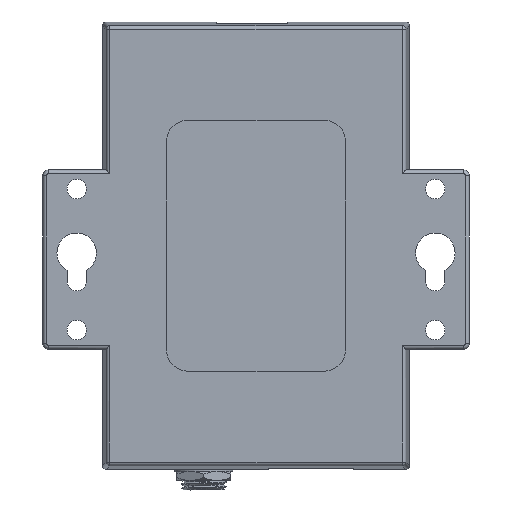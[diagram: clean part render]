
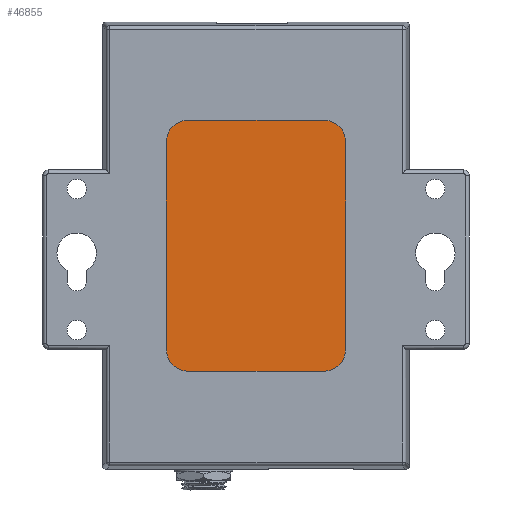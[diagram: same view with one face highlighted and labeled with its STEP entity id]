
A CAD part, front view. The second image highlights one B-rep face of the part: STEP entity #46855.
In plain terms, the highlighted planar face has unit normal (0, -1, 0) as drawn and (0, 1, 0) by its records, which use the part's own axes.
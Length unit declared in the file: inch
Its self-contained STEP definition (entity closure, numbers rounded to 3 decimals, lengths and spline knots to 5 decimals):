
#625 = EDGE_CURVE ( 'NONE', #2099, #23802, #33209, .T. ) ;
#1427 = CARTESIAN_POINT ( 'NONE',  ( 0., 0.01, 0. ) ) ;
#2099 = VERTEX_POINT ( 'NONE', #32347 ) ;
#2554 = AXIS2_PLACEMENT_3D ( 'NONE', #44702, #17270, #49255 ) ;
#2796 = VERTEX_POINT ( 'NONE', #45698 ) ;
#3155 = ORIENTED_EDGE ( 'NONE', *, *, #39306, .T. ) ;
#3282 = EDGE_CURVE ( 'NONE', #53945, #2796, #22520, .T. ) ;
#4163 = ORIENTED_EDGE ( 'NONE', *, *, #5909, .T. ) ;
#5103 = DIRECTION ( 'NONE',  ( 0., 1., 0. ) ) ;
#5909 = EDGE_CURVE ( 'NONE', #37799, #47938, #26864, .T. ) ;
#6009 = DIRECTION ( 'NONE',  ( 0., 0., -1. ) ) ;
#6233 = EDGE_CURVE ( 'NONE', #23849, #2099, #9613, .T. ) ;
#9613 = CIRCLE ( 'NONE', #38734, 0.15 ) ;
#9742 = CARTESIAN_POINT ( 'NONE',  ( 1.1, 0.01, -1.75 ) ) ;
#9843 = DIRECTION ( 'NONE',  ( 1., 0., 0. ) ) ;
#11198 = EDGE_CURVE ( 'NONE', #23802, #15960, #21736, .T. ) ;
#11217 = ORIENTED_EDGE ( 'NONE', *, *, #3282, .T. ) ;
#14187 = EDGE_CURVE ( 'NONE', #15960, #53945, #34520, .T. ) ;
#14378 = DIRECTION ( 'NONE',  ( -1., 0., 0. ) ) ;
#15047 = ORIENTED_EDGE ( 'NONE', *, *, #11198, .T. ) ;
#15960 = VERTEX_POINT ( 'NONE', #9742 ) ;
#17076 = DIRECTION ( 'NONE',  ( 0., 1., 0. ) ) ;
#17270 = DIRECTION ( 'NONE',  ( 0., 1., 0. ) ) ;
#17990 = AXIS2_PLACEMENT_3D ( 'NONE', #1427, #33484, #6009 ) ;
#18819 = CARTESIAN_POINT ( 'NONE',  ( 0., 0.01, 0. ) ) ;
#19396 = FACE_OUTER_BOUND ( 'NONE', #26336, .T. ) ;
#19635 = PLANE ( 'NONE',  #17990 ) ;
#20178 = AXIS2_PLACEMENT_3D ( 'NONE', #32573, #5103, #37149 ) ;
#20992 = VECTOR ( 'NONE', #37248, 39.37008 ) ;
#21736 = CIRCLE ( 'NONE', #20178, 0.15 ) ;
#22520 = CIRCLE ( 'NONE', #2554, 0.15 ) ;
#23768 = DIRECTION ( 'NONE',  ( 0., 1., 0. ) ) ;
#23802 = VERTEX_POINT ( 'NONE', #29836 ) ;
#23849 = VERTEX_POINT ( 'NONE', #44054 ) ;
#24925 = CARTESIAN_POINT ( 'NONE',  ( 0.15, 0.01, 0. ) ) ;
#26336 = EDGE_LOOP ( 'NONE', ( #42998, #11217, #3155, #4163, #30983, #31319, #53032, #15047 ) ) ;
#26798 = CARTESIAN_POINT ( 'NONE',  ( 0., 0.01, 0. ) ) ;
#26864 = CIRCLE ( 'NONE', #34930, 0.15 ) ;
#29836 = CARTESIAN_POINT ( 'NONE',  ( 1.25, 0.01, -1.6 ) ) ;
#29918 = CARTESIAN_POINT ( 'NONE',  ( 0.15, 0.01, -1.75 ) ) ;
#30859 = LINE ( 'NONE', #18819, #41548 ) ;
#30983 = ORIENTED_EDGE ( 'NONE', *, *, #36836, .T. ) ;
#31319 = ORIENTED_EDGE ( 'NONE', *, *, #6233, .T. ) ;
#32347 = CARTESIAN_POINT ( 'NONE',  ( 1.25, 0.01, -0.15 ) ) ;
#32573 = CARTESIAN_POINT ( 'NONE',  ( 1.1, 0.01, -1.6 ) ) ;
#33209 = LINE ( 'NONE', #55165, #20992 ) ;
#33484 = DIRECTION ( 'NONE',  ( 0., -1., 0. ) ) ;
#34520 = LINE ( 'NONE', #37207, #58751 ) ;
#34930 = AXIS2_PLACEMENT_3D ( 'NONE', #51084, #23768, #55684 ) ;
#36836 = EDGE_CURVE ( 'NONE', #47938, #23849, #30859, .T. ) ;
#37149 = DIRECTION ( 'NONE',  ( 0., 0., -1. ) ) ;
#37207 = CARTESIAN_POINT ( 'NONE',  ( 0., 0.01, -1.75 ) ) ;
#37248 = DIRECTION ( 'NONE',  ( 0., 0., -1. ) ) ;
#37799 = VERTEX_POINT ( 'NONE', #40588 ) ;
#38734 = AXIS2_PLACEMENT_3D ( 'NONE', #44521, #17076, #49077 ) ;
#39306 = EDGE_CURVE ( 'NONE', #2796, #37799, #54058, .T. ) ;
#40588 = CARTESIAN_POINT ( 'NONE',  ( 0., 0.01, -0.15 ) ) ;
#41548 = VECTOR ( 'NONE', #9843, 39.37008 ) ;
#41946 = VECTOR ( 'NONE', #49760, 39.37008 ) ;
#42998 = ORIENTED_EDGE ( 'NONE', *, *, #14187, .T. ) ;
#44054 = CARTESIAN_POINT ( 'NONE',  ( 1.1, 0.01, 0. ) ) ;
#44521 = CARTESIAN_POINT ( 'NONE',  ( 1.1, 0.01, -0.15 ) ) ;
#44702 = CARTESIAN_POINT ( 'NONE',  ( 0.15, 0.01, -1.6 ) ) ;
#45698 = CARTESIAN_POINT ( 'NONE',  ( 0., 0.01, -1.6 ) ) ;
#46855 = ADVANCED_FACE ( 'NONE', ( #19396 ), #19635, .F. ) ;
#47938 = VERTEX_POINT ( 'NONE', #24925 ) ;
#49077 = DIRECTION ( 'NONE',  ( 0., 0., -1. ) ) ;
#49255 = DIRECTION ( 'NONE',  ( 0., 0., -1. ) ) ;
#49760 = DIRECTION ( 'NONE',  ( 0., 0., 1. ) ) ;
#51084 = CARTESIAN_POINT ( 'NONE',  ( 0.15, 0.01, -0.15 ) ) ;
#53032 = ORIENTED_EDGE ( 'NONE', *, *, #625, .T. ) ;
#53945 = VERTEX_POINT ( 'NONE', #29918 ) ;
#54058 = LINE ( 'NONE', #26798, #41946 ) ;
#55165 = CARTESIAN_POINT ( 'NONE',  ( 1.25, 0.01, 0. ) ) ;
#55684 = DIRECTION ( 'NONE',  ( 0., 0., -1. ) ) ;
#58751 = VECTOR ( 'NONE', #14378, 39.37008 ) ;
